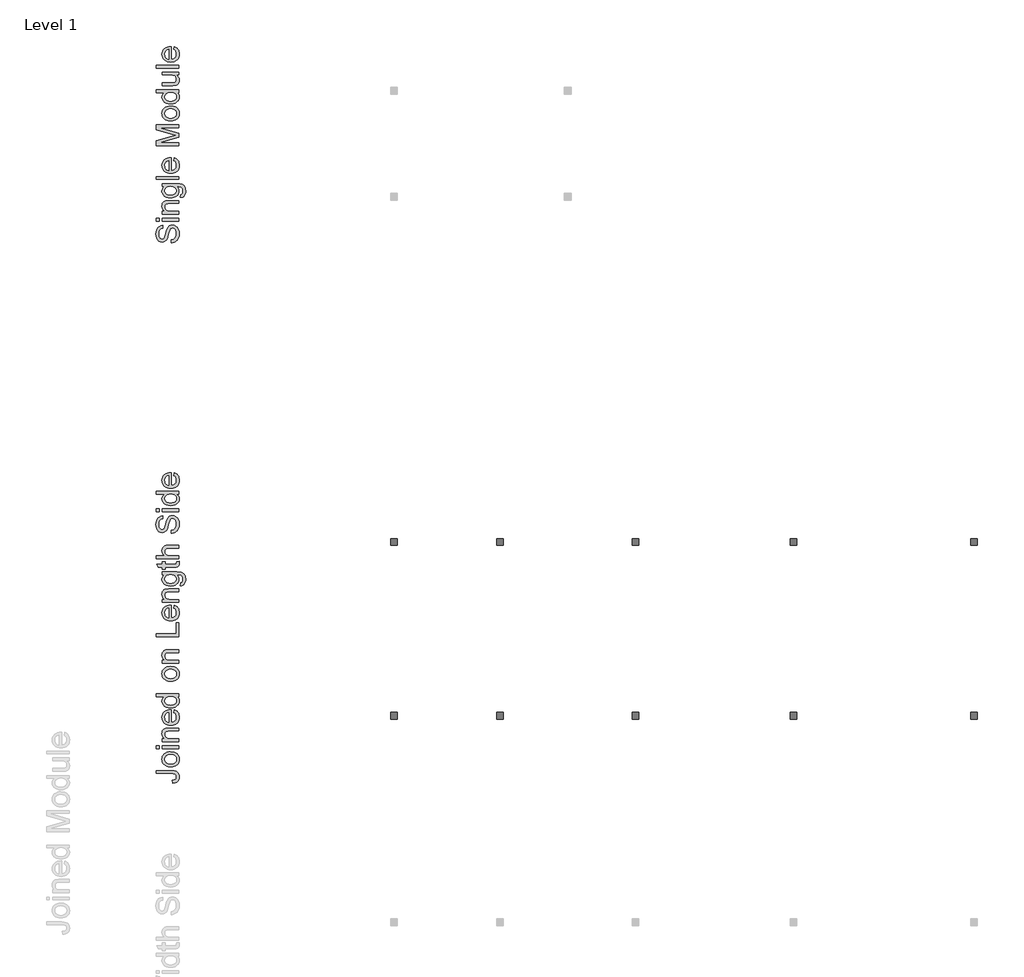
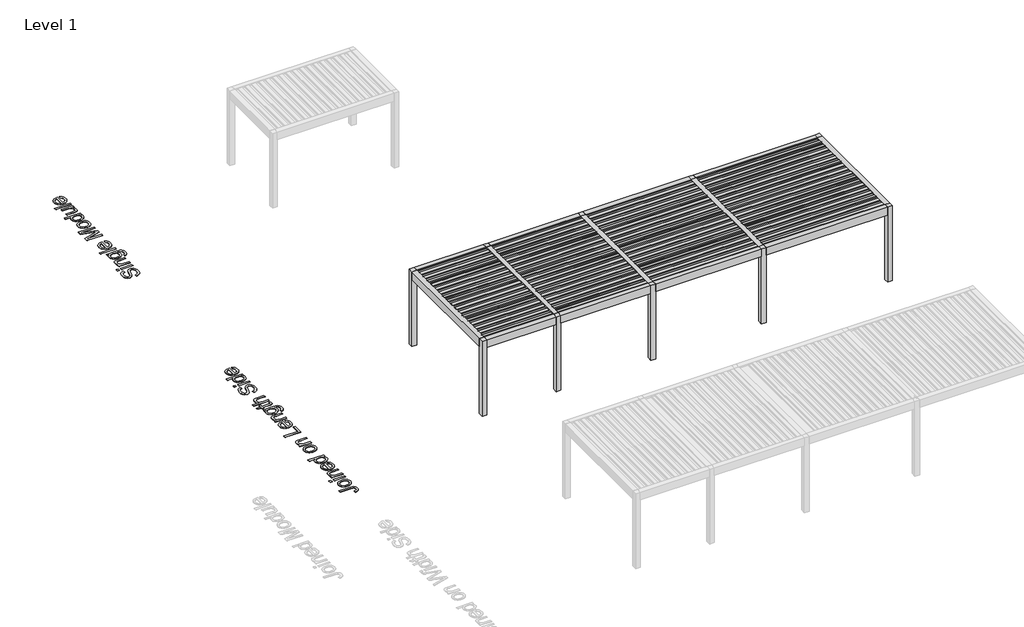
# One storey, part 42 of 69: 3 proxies.
"""IFC4 building model written with IfcOpenShell, lengths in millimetres."""

from ifc_helpers import new_model, si_unit, origin, origin_with_axes, place, context, project, spatial, polyline, outline, extrude, transform, mapped, element, save
from components import generic_models_a9a52054, generic_models_125597d2

model = new_model("IFC4")

# Units and contexts
model_context = context("Model", 3, world=origin())
ifc_project = project(units=[si_unit("LENGTHUNIT", "METRE", prefix="MILLI")], contexts=[model_context])

# Site, building, storey
site = spatial("IfcSite", under=ifc_project)
building = spatial("IfcBuilding", under=site)
storey = spatial("IfcBuildingStorey", under=building, Name="Level 1", Elevation=0.0)

# Proxies
placement = place(None, origin())
generic_models_shape = generic_models_a9a52054(model_context)
generic_models_2_shape = generic_models_125597d2(model_context)
element("IfcBuildingElementProxy", 1, Name="Renson_Camargue_Freestanding_Patio covers : Renson_Camargue_Freestanding_Patio covers", ObjectType="Renson_Camargue_Freestanding_Patio covers : Renson_Camargue_Freestanding_Patio covers", at=placement, inside=storey, context=model_context, shape_type="MappedRepresentation", body=[
    mapped(generic_models_shape, transform((-10046.834943, 22628.5861401, 0.0), x_axis=(1.0, 0.0, 0.0), y_axis=(0.0, 1.0, 0.0), z_axis=(0.0, 0.0, 1.0))),
    mapped(generic_models_2_shape, transform((-10046.834943, 22628.5861401, 0.0), x_axis=(1.0, 0.0, 0.0), y_axis=(0.0, 1.0, 0.0), z_axis=(0.0, 0.0, 1.0))),
])
element("IfcBuildingElementProxy", 2, Name="500mm Arial", ObjectType="500mm Arial", at=placement, inside=storey, context=model_context, shape_type="SweptSolid", body=[
    extrude(outline(polyline([(-16159.6666242, 31183.2954326), (-16159.6666242, 31246.0806264), (-16124.8251336, 31253.2849821), (-16096.8201167, 31266.3141361), (-16074.5939129, 31286.6396164), (-16057.0888612, 31315.7329508), (-16045.7305046, 31351.294877), (-16041.9443858, 31391.0261325), (-16044.8107997, 31426.0055789), (-16053.4100413, 31456.631755), (-16067.0216751, 31481.4484612), (-16084.9252655, 31498.9994981), (-16105.480672, 31509.4381497), (-16127.047754, 31512.9177002), (-16148.063013, 31510.3118694), (-16166.2271865, 31502.494377), (-16181.7242155, 31486.6141376), (-16194.7380411, 31459.8200656), (-16218.7116845, 31368.4013898), (-16234.5765955, 31308.3906393), (-16249.6750857, 31269.9929561), (-16270.7976436, 31238.7383149), (-16296.3960991, 31216.5887531), (-16325.9186292, 31203.3909866), (-16358.813411, 31198.991731), (-16395.5862821, 31204.4333189), (-16429.8759497, 31220.7580824), (-16445.4036356, 31232.8943561), (-16458.9386273, 31247.536826), (-16480.0305284, 31284.3403539), (-16492.860413, 31328.5168502), (-16497.1370411, 31377.4144987), (-16492.6611435, 31430.389506), (-16479.2334507, 31476.7426374), (-16457.1298742, 31514.8184239), (-16442.9280963, 31530.1315119), (-16426.6263254, 31542.9613965), (-16389.6235281, 31560.7730165), (-16348.0222058, 31567.8547449), (-16348.0222058, 31505.069551), (-16368.0564461, 31500.8695649), (-16385.4848556, 31493.5425818), (-16400.3074343, 31483.0886018), (-16412.5241823, 31469.5076248), (-16422.0737857, 31452.546732), (-16428.894931, 31431.9530045), (-16434.3518473, 31379.8670453), (-16428.9562447, 31326.5548129), (-16422.2117415, 31306.1756832), (-16412.7694369, 31289.9812112), (-16401.4187445, 31277.6418359), (-16388.9490777, 31268.8279964), (-16375.3604365, 31263.5396928), (-16360.6528209, 31261.7769249), (-16336.5258934, 31266.7739886), (-16317.1201182, 31281.7651799), (-16308.4902197, 31295.5300979), (-16299.7683507, 31317.2044788), (-16282.0487013, 31384.2816293), (-16265.2181, 31453.504758), (-16250.533477, 31495.3819918), (-16227.7554502, 31531.1738443), (-16199.6431344, 31556.1438347), (-16166.503098, 31570.8131292), (-16128.6419093, 31575.7028941), (-16089.9376577, 31570.0773652), (-16053.5326686, 31553.2007787), (-16022.2013854, 31525.7629132), (-15998.7182513, 31488.4535476), (-15984.0489568, 31443.5872726), (-15979.1591919, 31393.4786791), (-15984.4321672, 31331.9657439), (-15991.0233863, 31305.2904671), (-16000.251093, 31281.3359843), (-16012.1306158, 31259.9566754), (-16026.677283, 31241.0069206), (-16043.8910947, 31224.4867197), (-16063.7720508, 31210.3960729), (-16085.676358, 31199.0453805), (-16108.9602226, 31190.745043), (-16133.6236447, 31185.4950603), (-16159.6666242, 31183.2954326)])), origin_with_axes(), (0.0, 0.0, 1.0), 5.0),
    extrude(outline(polyline([(-16426.5036981, 31662.0325356), (-16489.2888919, 31662.0325356), (-16489.2888919, 31724.8177295), (-16426.5036981, 31724.8177295), (-16426.5036981, 31662.0325356)])), origin_with_axes(), (0.0, 0.0, 1.0), 5.0),
    extrude(outline(polyline([(-15987.0073412, 31662.0325356), (-16355.870355, 31662.0325356), (-16355.870355, 31724.8177295), (-15987.0073412, 31724.8177295), (-15987.0073412, 31662.0325356)])), origin_with_axes(), (0.0, 0.0, 1.0), 5.0),
    extrude(outline(polyline([(-15987.0073412, 31818.9955202), (-16355.870355, 31818.9955202), (-16355.870355, 31881.7807141), (-16304.3668757, 31881.7807141), (-16330.3332132, 31903.5930507), (-16348.8805971, 31929.7893144), (-16360.0090274, 31960.3695053), (-16363.7185042, 31995.3336233), (-16360.729463, 32026.2816961), (-16351.7623394, 32054.6239381), (-16337.9361077, 32078.2603563), (-16320.3697425, 32095.0909576), (-16299.1092288, 32106.5106279), (-16274.2005521, 32113.914253), (-16213.5000229, 32117.225191), (-15987.0073412, 32117.225191), (-15987.0073412, 32054.4399971), (-16205.038737, 32054.4399971), (-16237.504323, 32052.631244), (-16260.5889182, 32047.2049846), (-16277.1282796, 32037.1955286), (-16289.9581642, 32021.6371859), (-16298.1895238, 32001.6949161), (-16300.9333104, 31978.5336788), (-16299.3928045, 31959.4689608), (-16294.771287, 31941.7608077), (-16287.0687577, 31925.4092194), (-16276.2852167, 31910.414196), (-16261.1943907, 31897.8870477), (-16240.5700063, 31888.9390846), (-16214.4120636, 31883.5703067), (-16182.7205626, 31881.7807141), (-15987.0073412, 31881.7807141), (-15987.0073412, 31818.9955202)])), origin_with_axes(), (0.0, 0.0, 1.0), 5.0),
    extrude(outline(polyline([(-15955.6147442, 32187.8585341), (-15947.766595, 32250.6437279), (-15928.1462219, 32257.5721721), (-15914.6572154, 32270.999865), (-15904.1725786, 32297.3953981), (-15900.6776996, 32331.9456488), (-15904.6324311, 32368.795162), (-15916.4966254, 32396.2023707), (-15935.5038618, 32415.2096071), (-15960.8877195, 32426.8592036), (-15987.8963893, 32430.2621121), (-16034.0962365, 32431.1511602), (-16013.4948448, 32410.2585286), (-15998.779565, 32386.9440071), (-15989.9503971, 32361.2075959), (-15987.0073412, 32333.0492948), (-15990.4332422, 32298.6255035), (-16000.7109455, 32268.3173921), (-16017.8404509, 32242.1249605), (-16041.8217584, 32220.0482086), (-16070.5931962, 32202.5316607), (-16102.093092, 32190.0198408), (-16136.321446, 32182.5127488), (-16173.2782581, 32180.0103848), (-16223.9693313, 32184.5016109), (-16270.5830458, 32197.9752889), (-16310.084375, 32219.9562381), (-16326.0297602, 32233.9587466), (-16339.4382925, 32249.9692776), (-16350.0608852, 32267.7310802), (-16357.6484513, 32286.9874033), (-16362.200991, 32307.7382471), (-16363.7185042, 32329.9836115), (-16360.2849389, 32359.3451933), (-16349.9842431, 32385.9936453), (-16332.8164166, 32409.9289676), (-16308.7814596, 32431.1511602), (-16355.870355, 32431.1511602), (-16355.870355, 32493.9363541), (-16037.4071745, 32493.9363541), (-15963.8767607, 32489.6443974), (-15936.5270336, 32484.2794517), (-15915.4542931, 32476.7685276), (-15883.3412606, 32454.588309), (-15858.7391522, 32422.383306), (-15849.6187444, 32402.6977871), (-15843.1041674, 32380.8586258), (-15837.8925058, 32330.7193755), (-15839.7280837, 32299.9590758), (-15845.2348173, 32272.3027804), (-15854.4127066, 32247.7504893), (-15867.2617517, 32226.3022026), (-15883.797281, 32208.9772598), (-15904.0346228, 32196.7950009), (-15927.9737773, 32189.7554256), (-15955.6147442, 32187.8585341)]), holes=[polyline([(-16177.5702147, 32242.7955787), (-16146.5263392, 32244.4702082), (-16119.981354, 32249.4940967), (-16097.935259, 32257.8672442), (-16080.3880543, 32269.5896507), (-16067.0025146, 32283.8412459), (-16057.4414148, 32299.8019595), (-16051.704755, 32317.4717916), (-16049.792535, 32336.8507421), (-16051.6932587, 32356.0380874), (-16057.3954296, 32373.6236132), (-16066.8990478, 32389.6073195), (-16080.2041133, 32403.9892062), (-16097.5788733, 32415.8725611), (-16119.2915753, 32424.3606717), (-16145.342219, 32429.4535381), (-16175.7308047, 32431.1511602), (-16204.8509639, 32429.4037207), (-16230.1620116, 32424.1614023), (-16251.6639478, 32415.4242049), (-16269.3567725, 32403.1921286), (-16283.1715078, 32388.4998414), (-16293.0391759, 32372.3820115), (-16298.9597768, 32354.8386388), (-16300.9333104, 32335.8697235), (-16298.9904336, 32317.2188727), (-16293.1618032, 32300.0165573), (-16283.4474193, 32284.2627773), (-16269.8472818, 32269.9575327), (-16252.4227044, 32258.0741778), (-16231.2350007, 32249.5860672), (-16206.2841708, 32244.4932008), (-16177.5702147, 32242.7955787)])]), origin_with_axes(), (0.0, 0.0, 1.0), 5.0),
    extrude(outline(polyline([(-15987.0073412, 32588.1141448), (-16489.2888919, 32588.1141448), (-16489.2888919, 32650.8993387), (-15987.0073412, 32650.8993387), (-15987.0073412, 32588.1141448)])), origin_with_axes(), (0.0, 0.0, 1.0), 5.0),
    extrude(outline(polyline([(-16096.8814304, 33003.33029), (-16089.0332812, 33064.8892106), (-16064.3775233, 33055.4507381), (-16042.6494929, 33042.7089919), (-16023.8491901, 33026.663972), (-16007.9766149, 33007.3156783), (-15995.3689923, 32984.8633803), (-15986.3635477, 32959.5063474), (-15980.9602809, 32931.2445795), (-15979.1591919, 32900.0780767), (-15982.2670284, 32861.1209063), (-15991.5905377, 32826.4097072), (-16007.1297199, 32795.9444795), (-16028.884575, 32769.7252231), (-16056.2496304, 32748.6409863), (-16088.6194139, 32733.5808171), (-16125.9939254, 32724.5447156), (-16168.3731648, 32721.5326817), (-16212.1894433, 32724.5753724), (-16250.8093885, 32733.7034444), (-16284.2330006, 32748.9168977), (-16312.4602796, 32770.2157324), (-16334.8857529, 32796.3660109), (-16350.9039481, 32826.1337957), (-16360.5148652, 32859.5190868), (-16363.7185042, 32896.5218841), (-16360.5225294, 32932.3328971), (-16350.9346049, 32964.718009), (-16334.9547307, 32993.6772198), (-16312.5829069, 33019.2105295), (-16284.4169416, 33040.0533438), (-16251.0546432, 33054.9410683), (-16212.4960116, 33063.873703), (-16168.7410468, 33066.8512479), (-16151.818475, 33066.4833659), (-16151.818475, 32784.3178756), (-16126.7641783, 32787.9545424), (-16104.8215501, 32795.1857229), (-16085.9905905, 32806.011417), (-16070.2712994, 32820.4316248), (-16057.8782747, 32837.6492686), (-16049.0261142, 32856.8672707), (-16043.7148179, 32878.0856312), (-16041.9443858, 32901.30435), (-16045.2246669, 32934.7202979), (-16055.0655103, 32962.8632706), (-16072.0800526, 32985.7332679), (-16096.8814304, 33003.33029)]), holes=[polyline([(-16214.6036688, 32784.3178756), (-16214.6036688, 33004.066054), (-16247.7743621, 32995.5741113), (-16271.5027508, 32978.927451), (-16284.3786206, 32961.8056098), (-16293.5756705, 32942.3231925), (-16299.0939004, 32920.480199), (-16300.9333104, 32896.2766294), (-16295.0625269, 32853.9548716), (-16287.7240475, 32835.5416113), (-16277.4501764, 32818.9600968), (-16264.7160944, 32805.0457267), (-16249.9969825, 32794.6338999), (-16233.2928406, 32787.7246161), (-16214.6036688, 32784.3178756)])]), origin_with_axes(), (0.0, 0.0, 1.0), 5.0),
    extrude(outline(polyline([(-15987.0073412, 33333.6883217), (-16489.2888919, 33333.6883217), (-16489.2888919, 33441.723001), (-16135.2637852, 33544.4847049), (-16061.3195042, 33565.208724), (-16141.3951518, 33587.6495257), (-16489.2888919, 33688.6944471), (-16489.2888919, 33796.7291263), (-15987.0073412, 33796.7291263), (-15987.0073412, 33733.9439325), (-16426.5036981, 33733.9439325), (-15987.0073412, 33607.7604081), (-15987.0073412, 33522.6570399), (-16426.5036981, 33396.4735156), (-15987.0073412, 33396.4735156), (-15987.0073412, 33333.6883217)])), origin_with_axes(), (0.0, 0.0, 1.0), 5.0),
    extrude(outline(polyline([(-16171.4388481, 33883.0587678), (-16219.209858, 33886.4540121), (-16260.3743204, 33896.6397448), (-16294.9322353, 33913.6159661), (-16322.8836028, 33937.3826758), (-16340.7488722, 33961.3103339), (-16353.5097789, 33987.7211955), (-16361.1663229, 34016.6152605), (-16363.7185042, 34047.992529), (-16360.6106678, 34082.6309181), (-16351.2871585, 34113.9507051), (-16335.7479763, 34141.9518898), (-16313.9931212, 34166.6344725), (-16286.7583573, 34186.7798438), (-16254.7794484, 34201.1693948), (-16218.0563947, 34209.8031253), (-16176.589196, 34212.6810355), (-16113.1602087, 34207.5920012), (-16087.1248933, 34201.2307084), (-16064.8756968, 34192.3248984), (-16045.6576947, 34180.9857024), (-16028.7159624, 34167.3242512), (-16014.0504999, 34151.3405449), (-16001.6613073, 34133.0345836), (-15984.7847208, 34092.306981), (-15979.1591919, 34047.992529), (-15982.2555321, 34012.8483022), (-15991.5445524, 33981.2372753), (-16007.0262531, 33953.1594484), (-16028.700634, 33928.6148216), (-16056.1998131, 33908.6840481), (-16089.1559085, 33894.4477813), (-16127.5689202, 33885.9060212), (-16171.4388481, 33883.0587678)]), holes=[polyline([(-16171.5614754, 33945.8439617), (-16141.107744, 33947.660379), (-16114.7390356, 33953.1096311), (-16092.4553501, 33962.1917178), (-16074.2566877, 33974.9066393), (-16060.1200556, 33990.3730115), (-16050.0224613, 34007.7094505), (-16043.9639046, 34026.9159564), (-16041.9443858, 34047.992529), (-16043.975401, 34068.9618027), (-16050.0684465, 34088.0916665), (-16060.2235224, 34105.3821203), (-16074.4406287, 34120.8331641), (-16092.8194, 34133.5480855), (-16115.4594711, 34142.6301723), (-16142.360842, 34148.0794243), (-16173.5235127, 34149.8958417), (-16203.0115539, 34148.067928), (-16228.6904836, 34142.584187), (-16250.5603018, 34133.4446187), (-16268.6210085, 34120.6492231), (-16282.7576406, 34105.1406977), (-16292.8552349, 34087.8617402), (-16298.9137915, 34068.8123507), (-16300.9333104, 34047.992529), (-16298.9214557, 34026.9159564), (-16292.8858917, 34007.7094505), (-16282.8266184, 33990.3730115), (-16268.7436358, 33974.9066393), (-16250.5986228, 33962.1917178), (-16228.3532584, 33953.1096311), (-16202.0075426, 33947.660379), (-16171.5614754, 33945.8439617)])]), origin_with_axes(), (0.0, 0.0, 1.0), 5.0),
    extrude(outline(polyline([(-15987.0073412, 34510.9107063), (-16046.2363424, 34510.9107063), (-16016.8900891, 34492.1257319), (-15995.9284795, 34469.3706977), (-15983.3515138, 34442.6456035), (-15979.1591919, 34411.9504496), (-15985.2292449, 34371.3608028), (-16003.4394036, 34334.2047213), (-16032.5174097, 34302.7508107), (-16071.1910044, 34279.2676766), (-16117.8966894, 34264.6443673), (-16171.0709661, 34259.7699309), (-16223.5861209, 34264.2611569), (-16271.0122414, 34277.734835), (-16292.1424635, 34287.8362614), (-16310.6515264, 34300.1756367), (-16326.5394301, 34314.7529608), (-16339.8061745, 34331.5682336), (-16357.7404218, 34369.5367212), (-16363.7185042, 34411.7051949), (-16359.441876, 34442.4233415), (-16346.6119915, 34469.5852955), (-16326.9456331, 34492.608577), (-16302.1595837, 34510.9107063), (-16489.2888919, 34510.9107063), (-16489.2888919, 34573.6959001), (-15987.0073412, 34573.6959001), (-15987.0073412, 34510.9107063)]), holes=[polyline([(-16171.3162207, 34322.5551247), (-16140.8701535, 34324.3255568), (-16114.5244377, 34329.6368531), (-16092.2790733, 34338.4890137), (-16074.1340604, 34350.8820384), (-16060.0510777, 34365.6816245), (-16049.9918044, 34381.7534691), (-16043.9562404, 34399.0975724), (-16041.9443858, 34417.7139342), (-16043.8642699, 34436.4184344), (-16049.6239224, 34453.6590708), (-16059.2233432, 34469.4358434), (-16072.6625324, 34483.7487523), (-16090.0487888, 34495.6321072), (-16111.4894113, 34504.1202178), (-16136.9844, 34509.2130841), (-16166.5337548, 34510.9107063), (-16198.930363, 34509.1824273), (-16226.7131179, 34503.9975904), (-16249.8820193, 34495.3561957), (-16268.4370675, 34483.258243), (-16282.6541737, 34468.6311016), (-16292.8092497, 34452.4021406), (-16298.9022952, 34434.5713602), (-16300.9333104, 34415.1387602), (-16298.9827694, 34396.1545164), (-16293.1311464, 34378.8104132), (-16283.3784414, 34363.1064505), (-16269.7246545, 34349.0426284), (-16251.8708814, 34337.4543455), (-16229.5182181, 34329.1770007), (-16202.6666645, 34324.2105937), (-16171.3162207, 34322.5551247)])]), origin_with_axes(), (0.0, 0.0, 1.0), 5.0),
    extrude(outline(polyline([(-15987.0073412, 34903.3181678), (-16050.4056717, 34903.3181678), (-16019.2353368, 34880.6014546), (-15996.9708119, 34854.1446078), (-15983.6120969, 34823.9476273), (-15979.1591919, 34790.0105133), (-15982.2861889, 34759.4303224), (-15991.6671798, 34730.9654531), (-16005.7693229, 34707.0837802), (-16023.0597767, 34690.2531789), (-16044.0597073, 34678.9254792), (-16069.2902808, 34671.5525108), (-16127.6608907, 34667.8736909), (-16355.870355, 34667.8736909), (-16355.870355, 34730.6588847), (-16157.2140776, 34730.6588847), (-16093.2026104, 34734.460332), (-16071.8501263, 34743.6113966), (-16055.6173333, 34759.2923667), (-16045.3626227, 34780.4609098), (-16041.9443858, 34806.0746937), (-16045.4392647, 34833.1600056), (-16055.9239016, 34858.497878), (-16072.4326061, 34879.3905097), (-16093.9996881, 34893.1400993), (-16123.5375466, 34900.7736507), (-16163.9585808, 34903.3181678), (-16355.870355, 34903.3181678), (-16355.870355, 34966.1033616), (-15987.0073412, 34966.1033616), (-15987.0073412, 34903.3181678)])), origin_with_axes(), (0.0, 0.0, 1.0), 5.0),
    extrude(outline(polyline([(-15987.0073412, 35052.4330032), (-16489.2888919, 35052.4330032), (-16489.2888919, 35115.218197), (-15987.0073412, 35115.218197), (-15987.0073412, 35052.4330032)])), origin_with_axes(), (0.0, 0.0, 1.0), 5.0),
    extrude(outline(polyline([(-16096.8814304, 35467.6491484), (-16089.0332812, 35529.2080689), (-16064.3775233, 35519.7695965), (-16042.6494929, 35507.0278503), (-16023.8491901, 35490.9828304), (-16007.9766149, 35471.6345367), (-15995.3689923, 35449.1822387), (-15986.3635477, 35423.8252057), (-15980.9602809, 35395.5634379), (-15979.1591919, 35364.3969351), (-15982.2670284, 35325.4397646), (-15991.5905377, 35290.7285655), (-16007.1297199, 35260.2633378), (-16028.884575, 35234.0440815), (-16056.2496304, 35212.9598446), (-16088.6194139, 35197.8996754), (-16125.9939254, 35188.8635739), (-16168.3731648, 35185.8515401), (-16212.1894433, 35188.8942308), (-16250.8093885, 35198.0223028), (-16284.2330006, 35213.2357561), (-16312.4602796, 35234.5345908), (-16334.8857529, 35260.6848693), (-16350.9039481, 35290.4526541), (-16360.5148652, 35323.8379451), (-16363.7185042, 35360.8407425), (-16360.5225294, 35396.6517554), (-16350.9346049, 35429.0368673), (-16334.9547307, 35457.9960781), (-16312.5829069, 35483.5293879), (-16284.4169416, 35504.3722021), (-16251.0546432, 35519.2599266), (-16212.4960116, 35528.1925613), (-16168.7410468, 35531.1701062), (-16151.818475, 35530.8022242), (-16151.818475, 35248.6367339), (-16126.7641783, 35252.2734007), (-16104.8215501, 35259.5045812), (-16085.9905905, 35270.3302753), (-16070.2712994, 35284.7504831), (-16057.8782747, 35301.9681269), (-16049.0261142, 35321.1861291), (-16043.7148179, 35342.4044896), (-16041.9443858, 35365.6232084), (-16045.2246669, 35399.0391563), (-16055.0655103, 35427.1821289), (-16072.0800526, 35450.0521263), (-16096.8814304, 35467.6491484)]), holes=[polyline([(-16214.6036688, 35248.6367339), (-16214.6036688, 35468.3849124), (-16247.7743621, 35459.8929697), (-16271.5027508, 35443.2463094), (-16284.3786206, 35426.1244682), (-16293.5756705, 35406.6420509), (-16299.0939004, 35384.7990574), (-16300.9333104, 35360.5954878), (-16295.0625269, 35318.2737299), (-16287.7240475, 35299.8604697), (-16277.4501764, 35283.2789551), (-16264.7160944, 35269.3645851), (-16249.9969825, 35258.9527582), (-16233.2928406, 35252.0434745), (-16214.6036688, 35248.6367339)])]), origin_with_axes(), (0.0, 0.0, 1.0), 5.0),
])
element("IfcBuildingElementProxy", 3, Name="500mm Arial", ObjectType="500mm Arial", at=placement, inside=storey, context=model_context, shape_type="SweptSolid", body=[
    extrude(outline(polyline([(-16128.0287727, 19215.8193319), (-16136.1221765, 19278.6045257), (-16090.4741523, 19285.1344311), (-16074.0650825, 19291.5493734), (-16061.9326409, 19300.0643087), (-16046.9414495, 19322.8729924), (-16041.9443858, 19353.0393161), (-16044.7801428, 19376.2312102), (-16053.287414, 19396.0201958), (-16066.68445, 19411.2872986), (-16084.1895016, 19420.9135442), (-16109.527374, 19426.0179068), (-16146.4228724, 19427.7193611), (-16489.2888919, 19427.7193611), (-16489.2888919, 19490.5045549), (-16147.5265184, 19490.5045549), (-16091.6237835, 19486.718436), (-16049.976476, 19475.3600794), (-16019.5495693, 19455.7703632), (-15997.308037, 19427.2901654), (-15983.6964032, 19391.5289698), (-15979.1591919, 19350.0962601), (-15981.5006076, 19319.1558515), (-15988.5248544, 19292.0628754), (-16000.2319325, 19268.8173318), (-16016.6218418, 19249.4192207), (-16037.6332686, 19234.2134316), (-16063.2048994, 19223.5448537), (-16093.3367341, 19217.4134872), (-16128.0287727, 19215.8193319)])), origin_with_axes(), (0.0, 0.0, 1.0), 5.0),
    extrude(outline(polyline([(-16171.4388481, 19576.8341965), (-16219.209858, 19580.2294407), (-16260.3743204, 19590.4151734), (-16294.9322353, 19607.3913947), (-16322.8836028, 19631.1581044), (-16340.7488722, 19655.0857625), (-16353.5097789, 19681.4966241), (-16361.1663229, 19710.3906891), (-16363.7185042, 19741.7679576), (-16360.6106678, 19776.4063467), (-16351.2871585, 19807.7261337), (-16335.7479763, 19835.7273185), (-16313.9931212, 19860.4099011), (-16286.7583573, 19880.5552724), (-16254.7794484, 19894.9448234), (-16218.0563947, 19903.5785539), (-16176.589196, 19906.4564641), (-16113.1602087, 19901.3674299), (-16087.1248933, 19895.006137), (-16064.8756968, 19886.1003271), (-16045.6576947, 19874.761131), (-16028.7159624, 19861.0996798), (-16014.0504999, 19845.1159735), (-16001.6613073, 19826.8100122), (-15984.7847208, 19786.0824096), (-15979.1591919, 19741.7679576), (-15982.2555321, 19706.6237308), (-15991.5445524, 19675.0127039), (-16007.0262531, 19646.9348771), (-16028.700634, 19622.3902502), (-16056.1998131, 19602.4594767), (-16089.1559085, 19588.2232099), (-16127.5689202, 19579.6814498), (-16171.4388481, 19576.8341965)]), holes=[polyline([(-16171.5614754, 19639.6193903), (-16141.107744, 19641.4358076), (-16114.7390356, 19646.8850597), (-16092.4553501, 19655.9671465), (-16074.2566877, 19668.6820679), (-16060.1200556, 19684.1484401), (-16050.0224613, 19701.4848792), (-16043.9639046, 19720.691385), (-16041.9443858, 19741.7679576), (-16043.975401, 19762.7372313), (-16050.0684465, 19781.8670951), (-16060.2235224, 19799.1575489), (-16074.4406287, 19814.6085927), (-16092.8194, 19827.3235141), (-16115.4594711, 19836.4056009), (-16142.360842, 19841.8548529), (-16173.5235127, 19843.6712703), (-16203.0115539, 19841.8433566), (-16228.6904836, 19836.3596156), (-16250.5603018, 19827.2200473), (-16268.6210085, 19814.4246517), (-16282.7576406, 19798.9161263), (-16292.8552349, 19781.6371688), (-16298.9137915, 19762.5877793), (-16300.9333104, 19741.7679576), (-16298.9214557, 19720.691385), (-16292.8858917, 19701.4848792), (-16282.8266184, 19684.1484401), (-16268.7436358, 19668.6820679), (-16250.5986228, 19655.9671465), (-16228.3532584, 19646.8850597), (-16202.0075426, 19641.4358076), (-16171.5614754, 19639.6193903)])]), origin_with_axes(), (0.0, 0.0, 1.0), 5.0),
    extrude(outline(polyline([(-16426.5036981, 19977.0898072), (-16489.2888919, 19977.0898072), (-16489.2888919, 20039.875001), (-16426.5036981, 20039.875001), (-16426.5036981, 19977.0898072)])), origin_with_axes(), (0.0, 0.0, 1.0), 5.0),
    extrude(outline(polyline([(-15987.0073412, 19977.0898072), (-16355.870355, 19977.0898072), (-16355.870355, 20039.875001), (-15987.0073412, 20039.875001), (-15987.0073412, 19977.0898072)])), origin_with_axes(), (0.0, 0.0, 1.0), 5.0),
    extrude(outline(polyline([(-15987.0073412, 20134.0527918), (-16355.870355, 20134.0527918), (-16355.870355, 20196.8379857), (-16304.3668757, 20196.8379857), (-16330.3332132, 20218.6503223), (-16348.8805971, 20244.846586), (-16360.0090274, 20275.4267769), (-16363.7185042, 20310.3908948), (-16360.729463, 20341.3389677), (-16351.7623394, 20369.6812097), (-16337.9361077, 20393.3176279), (-16320.3697425, 20410.1482292), (-16299.1092288, 20421.5678995), (-16274.2005521, 20428.9715246), (-16213.5000229, 20432.2824626), (-15987.0073412, 20432.2824626), (-15987.0073412, 20369.4972687), (-16205.038737, 20369.4972687), (-16237.504323, 20367.6885156), (-16260.5889182, 20362.2622562), (-16277.1282796, 20352.2528002), (-16289.9581642, 20336.6944575), (-16298.1895238, 20316.7521877), (-16300.9333104, 20293.5909504), (-16299.3928045, 20274.5262324), (-16294.771287, 20256.8180793), (-16287.0687577, 20240.466491), (-16276.2852167, 20225.4714676), (-16261.1943907, 20212.9443193), (-16240.5700063, 20203.9963561), (-16214.4120636, 20198.6275783), (-16182.7205626, 20196.8379857), (-15987.0073412, 20196.8379857), (-15987.0073412, 20134.0527918)])), origin_with_axes(), (0.0, 0.0, 1.0), 5.0),
    extrude(outline(polyline([(-16096.8814304, 20776.8652647), (-16089.0332812, 20838.4241852), (-16064.3775233, 20828.9857128), (-16042.6494929, 20816.2439666), (-16023.8491901, 20800.1989467), (-16007.9766149, 20780.850653), (-15995.3689923, 20758.398355), (-15986.3635477, 20733.041322), (-15980.9602809, 20704.7795542), (-15979.1591919, 20673.6130514), (-15982.2670284, 20634.655881), (-15991.5905377, 20599.9446819), (-16007.1297199, 20569.4794541), (-16028.884575, 20543.2601978), (-16056.2496304, 20522.1759609), (-16088.6194139, 20507.1157918), (-16125.9939254, 20498.0796902), (-16168.3731648, 20495.0676564), (-16212.1894433, 20498.1103471), (-16250.8093885, 20507.2384191), (-16284.2330006, 20522.4518724), (-16312.4602796, 20543.7507071), (-16334.8857529, 20569.9009856), (-16350.9039481, 20599.6687704), (-16360.5148652, 20633.0540614), (-16363.7185042, 20670.0568588), (-16360.5225294, 20705.8678718), (-16350.9346049, 20738.2529836), (-16334.9547307, 20767.2121944), (-16312.5829069, 20792.7455042), (-16284.4169416, 20813.5883185), (-16251.0546432, 20828.476043), (-16212.4960116, 20837.4086777), (-16168.7410468, 20840.3862226), (-16151.818475, 20840.0183406), (-16151.818475, 20557.8528503), (-16126.7641783, 20561.4895171), (-16104.8215501, 20568.7206975), (-16085.9905905, 20579.5463917), (-16070.2712994, 20593.9665994), (-16057.8782747, 20611.1842432), (-16049.0261142, 20630.4022454), (-16043.7148179, 20651.6206059), (-16041.9443858, 20674.8393247), (-16045.2246669, 20708.2552726), (-16055.0655103, 20736.3982452), (-16072.0800526, 20759.2682426), (-16096.8814304, 20776.8652647)]), holes=[polyline([(-16214.6036688, 20557.8528503), (-16214.6036688, 20777.6010287), (-16247.7743621, 20769.109086), (-16271.5027508, 20752.4624257), (-16284.3786206, 20735.3405845), (-16293.5756705, 20715.8581672), (-16299.0939004, 20694.0151737), (-16300.9333104, 20669.8116041), (-16295.0625269, 20627.4898463), (-16287.7240475, 20609.076586), (-16277.4501764, 20592.4950715), (-16264.7160944, 20578.5807014), (-16249.9969825, 20568.1688745), (-16233.2928406, 20561.2595908), (-16214.6036688, 20557.8528503)])]), origin_with_axes(), (0.0, 0.0, 1.0), 5.0),
    extrude(outline(polyline([(-15987.0073412, 21130.7677441), (-16046.2363424, 21130.7677441), (-16016.8900891, 21111.9827697), (-15995.9284795, 21089.2277355), (-15983.3515138, 21062.5026413), (-15979.1591919, 21031.8074874), (-15985.2292449, 20991.2178406), (-16003.4394036, 20954.0617591), (-16032.5174097, 20922.6078485), (-16071.1910044, 20899.1247144), (-16117.8966894, 20884.5014051), (-16171.0709661, 20879.6269687), (-16223.5861209, 20884.1181947), (-16271.0122414, 20897.5918728), (-16292.1424635, 20907.6932993), (-16310.6515264, 20920.0326745), (-16326.5394301, 20934.6099986), (-16339.8061745, 20951.4252714), (-16357.7404218, 20989.393759), (-16363.7185042, 21031.5622327), (-16359.441876, 21062.2803793), (-16346.6119915, 21089.4423333), (-16326.9456331, 21112.4656148), (-16302.1595837, 21130.7677441), (-16489.2888919, 21130.7677441), (-16489.2888919, 21193.5529379), (-15987.0073412, 21193.5529379), (-15987.0073412, 21130.7677441)]), holes=[polyline([(-16171.3162207, 20942.4121625), (-16140.8701535, 20944.1825946), (-16114.5244377, 20949.493891), (-16092.2790733, 20958.3460515), (-16074.1340604, 20970.7390762), (-16060.0510777, 20985.5386623), (-16049.9918044, 21001.6105069), (-16043.9562404, 21018.9546102), (-16041.9443858, 21037.570972), (-16043.8642699, 21056.2754722), (-16049.6239224, 21073.5161086), (-16059.2233432, 21089.2928812), (-16072.6625324, 21103.6057901), (-16090.0487888, 21115.489145), (-16111.4894113, 21123.9772556), (-16136.9844, 21129.070122), (-16166.5337548, 21130.7677441), (-16198.930363, 21129.0394651), (-16226.7131179, 21123.8546283), (-16249.8820193, 21115.2132335), (-16268.4370675, 21103.1152808), (-16282.6541737, 21088.4881394), (-16292.8092497, 21072.2591784), (-16298.9022952, 21054.428398), (-16300.9333104, 21034.995798), (-16298.9827694, 21016.0115542), (-16293.1311464, 20998.667451), (-16283.3784414, 20982.9634883), (-16269.7246545, 20968.8996662), (-16251.8708814, 20957.3113834), (-16229.5182181, 20949.0340385), (-16202.6666645, 20944.0676315), (-16171.3162207, 20942.4121625)])]), origin_with_axes(), (0.0, 0.0, 1.0), 5.0),
    extrude(outline(polyline([(-16171.4388481, 21468.238161), (-16219.209858, 21471.6334052), (-16260.3743204, 21481.819138), (-16294.9322353, 21498.7953592), (-16322.8836028, 21522.5620689), (-16340.7488722, 21546.489727), (-16353.5097789, 21572.9005886), (-16361.1663229, 21601.7946537), (-16363.7185042, 21633.1719222), (-16360.6106678, 21667.8103113), (-16351.2871585, 21699.1300982), (-16335.7479763, 21727.131283), (-16313.9931212, 21751.8138656), (-16286.7583573, 21771.9592369), (-16254.7794484, 21786.3487879), (-16218.0563947, 21794.9825185), (-16176.589196, 21797.8604287), (-16113.1602087, 21792.7713944), (-16087.1248933, 21786.4101016), (-16064.8756968, 21777.5042916), (-16045.6576947, 21766.1650955), (-16028.7159624, 21752.5036443), (-16014.0504999, 21736.5199381), (-16001.6613073, 21718.2139767), (-15984.7847208, 21677.4863742), (-15979.1591919, 21633.1719222), (-15982.2555321, 21598.0276953), (-15991.5445524, 21566.4166684), (-16007.0262531, 21538.3388416), (-16028.700634, 21513.7942147), (-16056.1998131, 21493.8634412), (-16089.1559085, 21479.6271744), (-16127.5689202, 21471.0854143), (-16171.4388481, 21468.238161)]), holes=[polyline([(-16171.5614754, 21531.0233548), (-16141.107744, 21532.8397722), (-16114.7390356, 21538.2890242), (-16092.4553501, 21547.371111), (-16074.2566877, 21560.0860324), (-16060.1200556, 21575.5524047), (-16050.0224613, 21592.8888437), (-16043.9639046, 21612.0953495), (-16041.9443858, 21633.1719222), (-16043.975401, 21654.1411959), (-16050.0684465, 21673.2710596), (-16060.2235224, 21690.5615134), (-16074.4406287, 21706.0125572), (-16092.8194, 21718.7274787), (-16115.4594711, 21727.8095654), (-16142.360842, 21733.2588175), (-16173.5235127, 21735.0752348), (-16203.0115539, 21733.2473212), (-16228.6904836, 21727.7635802), (-16250.5603018, 21718.6240118), (-16268.6210085, 21705.8286162), (-16282.7576406, 21690.3200908), (-16292.8552349, 21673.0411334), (-16298.9137915, 21653.9917438), (-16300.9333104, 21633.1719222), (-16298.9214557, 21612.0953495), (-16292.8858917, 21592.8888437), (-16282.8266184, 21575.5524047), (-16268.7436358, 21560.0860324), (-16250.5986228, 21547.371111), (-16228.3532584, 21538.2890242), (-16202.0075426, 21532.8397722), (-16171.5614754, 21531.0233548)])]), origin_with_axes(), (0.0, 0.0, 1.0), 5.0),
    extrude(outline(polyline([(-15987.0073412, 21868.4937717), (-16355.870355, 21868.4937717), (-16355.870355, 21931.2789656), (-16304.3668757, 21931.2789656), (-16330.3332132, 21953.0913022), (-16348.8805971, 21979.287566), (-16360.0090274, 22009.8677568), (-16363.7185042, 22044.8318748), (-16360.729463, 22075.7799476), (-16351.7623394, 22104.1221896), (-16337.9361077, 22127.7586078), (-16320.3697425, 22144.5892091), (-16299.1092288, 22156.0088794), (-16274.2005521, 22163.4125045), (-16213.5000229, 22166.7234425), (-15987.0073412, 22166.7234425), (-15987.0073412, 22103.9382487), (-16205.038737, 22103.9382487), (-16237.504323, 22102.1294955), (-16260.5889182, 22096.7032361), (-16277.1282796, 22086.6937801), (-16289.9581642, 22071.1354374), (-16298.1895238, 22051.1931676), (-16300.9333104, 22028.0319303), (-16299.3928045, 22008.9672123), (-16294.771287, 21991.2590592), (-16287.0687577, 21974.9074709), (-16276.2852167, 21959.9124475), (-16261.1943907, 21947.3852992), (-16240.5700063, 21938.4373361), (-16214.4120636, 21933.0685582), (-16182.7205626, 21931.2789656), (-15987.0073412, 21931.2789656), (-15987.0073412, 21868.4937717)])), origin_with_axes(), (0.0, 0.0, 1.0), 5.0),
    extrude(outline(polyline([(-15987.0073412, 22457.104964), (-16489.2888919, 22457.104964), (-16489.2888919, 22519.8901579), (-16049.792535, 22519.8901579), (-16049.792535, 22771.0309332), (-15987.0073412, 22771.0309332), (-15987.0073412, 22457.104964)])), origin_with_axes(), (0.0, 0.0, 1.0), 5.0),
    extrude(outline(polyline([(-16096.8814304, 23092.0692877), (-16089.0332812, 23153.6282082), (-16064.3775233, 23144.1897358), (-16042.6494929, 23131.4479896), (-16023.8491901, 23115.4029697), (-16007.9766149, 23096.054676), (-15995.3689923, 23073.602378), (-15986.3635477, 23048.245345), (-15980.9602809, 23019.9835772), (-15979.1591919, 22988.8170744), (-15982.2670284, 22949.8599039), (-15991.5905377, 22915.1487049), (-16007.1297199, 22884.6834771), (-16028.884575, 22858.4642208), (-16056.2496304, 22837.3799839), (-16088.6194139, 22822.3198147), (-16125.9939254, 22813.2837132), (-16168.3731648, 22810.2716794), (-16212.1894433, 22813.3143701), (-16250.8093885, 22822.4424421), (-16284.2330006, 22837.6558954), (-16312.4602796, 22858.9547301), (-16334.8857529, 22885.1050086), (-16350.9039481, 22914.8727934), (-16360.5148652, 22948.2580844), (-16363.7185042, 22985.2608818), (-16360.5225294, 23021.0718947), (-16350.9346049, 23053.4570066), (-16334.9547307, 23082.4162174), (-16312.5829069, 23107.9495272), (-16284.4169416, 23128.7923414), (-16251.0546432, 23143.6800659), (-16212.4960116, 23152.6127006), (-16168.7410468, 23155.5902455), (-16151.818475, 23155.2223635), (-16151.818475, 22873.0568732), (-16126.7641783, 22876.69354), (-16104.8215501, 22883.9247205), (-16085.9905905, 22894.7504146), (-16070.2712994, 22909.1706224), (-16057.8782747, 22926.3882662), (-16049.0261142, 22945.6062684), (-16043.7148179, 22966.8246289), (-16041.9443858, 22990.0433477), (-16045.2246669, 23023.4592956), (-16055.0655103, 23051.6022682), (-16072.0800526, 23074.4722656), (-16096.8814304, 23092.0692877)]), holes=[polyline([(-16214.6036688, 22873.0568732), (-16214.6036688, 23092.8050517), (-16247.7743621, 23084.313109), (-16271.5027508, 23067.6664487), (-16284.3786206, 23050.5446075), (-16293.5756705, 23031.0621902), (-16299.0939004, 23009.2191967), (-16300.9333104, 22985.0156271), (-16295.0625269, 22942.6938692), (-16287.7240475, 22924.280609), (-16277.4501764, 22907.6990944), (-16264.7160944, 22893.7847244), (-16249.9969825, 22883.3728975), (-16233.2928406, 22876.4636138), (-16214.6036688, 22873.0568732)])]), origin_with_axes(), (0.0, 0.0, 1.0), 5.0),
    extrude(outline(polyline([(-15987.0073412, 23218.3754394), (-16355.870355, 23218.3754394), (-16355.870355, 23281.1606332), (-16304.3668757, 23281.1606332), (-16330.3332132, 23302.9729698), (-16348.8805971, 23329.1692336), (-16360.0090274, 23359.7494244), (-16363.7185042, 23394.7135424), (-16360.729463, 23425.6616152), (-16351.7623394, 23454.0038573), (-16337.9361077, 23477.6402755), (-16320.3697425, 23494.4708768), (-16299.1092288, 23505.890547), (-16274.2005521, 23513.2941722), (-16213.5000229, 23516.6051101), (-15987.0073412, 23516.6051101), (-15987.0073412, 23453.8199163), (-16205.038737, 23453.8199163), (-16237.504323, 23452.0111631), (-16260.5889182, 23446.5849037), (-16277.1282796, 23436.5754478), (-16289.9581642, 23421.0171051), (-16298.1895238, 23401.0748352), (-16300.9333104, 23377.9135979), (-16299.3928045, 23358.84888), (-16294.771287, 23341.1407268), (-16287.0687577, 23324.7891386), (-16276.2852167, 23309.7941152), (-16261.1943907, 23297.2669668), (-16240.5700063, 23288.3190037), (-16214.4120636, 23282.9502258), (-16182.7205626, 23281.1606332), (-15987.0073412, 23281.1606332), (-15987.0073412, 23218.3754394)])), origin_with_axes(), (0.0, 0.0, 1.0), 5.0),
    extrude(outline(polyline([(-15955.6147442, 23587.2384532), (-15947.766595, 23650.023647), (-15928.1462219, 23656.9520913), (-15914.6572154, 23670.3797841), (-15904.1725786, 23696.7753173), (-15900.6776996, 23731.325568), (-15904.6324311, 23768.1750812), (-15916.4966254, 23795.5822898), (-15935.5038618, 23814.5895262), (-15960.8877195, 23826.2391227), (-15987.8963893, 23829.6420312), (-16034.0962365, 23830.5310793), (-16013.4948448, 23809.6384477), (-15998.779565, 23786.3239263), (-15989.9503971, 23760.587515), (-15987.0073412, 23732.429214), (-15990.4332422, 23698.0054227), (-16000.7109455, 23667.6973112), (-16017.8404509, 23641.5048796), (-16041.8217584, 23619.4281278), (-16070.5931962, 23601.9115799), (-16102.093092, 23589.3997599), (-16136.321446, 23581.892668), (-16173.2782581, 23579.390304), (-16223.9693313, 23583.88153), (-16270.5830458, 23597.3552081), (-16310.084375, 23619.3361573), (-16326.0297602, 23633.3386657), (-16339.4382925, 23649.3491967), (-16350.0608852, 23667.1109993), (-16357.6484513, 23686.3673225), (-16362.200991, 23707.1181663), (-16363.7185042, 23729.3635307), (-16360.2849389, 23758.7251124), (-16349.9842431, 23785.3735644), (-16332.8164166, 23809.3088868), (-16308.7814596, 23830.5310793), (-16355.870355, 23830.5310793), (-16355.870355, 23893.3162732), (-16037.4071745, 23893.3162732), (-15963.8767607, 23889.0243166), (-15936.5270336, 23883.6593708), (-15915.4542931, 23876.1484468), (-15883.3412606, 23853.9682281), (-15858.7391522, 23821.7632251), (-15849.6187444, 23802.0777063), (-15843.1041674, 23780.2385449), (-15837.8925058, 23730.0992947), (-15839.7280837, 23699.3389949), (-15845.2348173, 23671.6826995), (-15854.4127066, 23647.1304084), (-15867.2617517, 23625.6821217), (-15883.797281, 23608.357179), (-15904.0346228, 23596.17492), (-15927.9737773, 23589.1353447), (-15955.6147442, 23587.2384532)]), holes=[polyline([(-16177.5702147, 23642.1754978), (-16146.5263392, 23643.8501273), (-16119.981354, 23648.8740158), (-16097.935259, 23657.2471633), (-16080.3880543, 23668.9695698), (-16067.0025146, 23683.221165), (-16057.4414148, 23699.1818787), (-16051.704755, 23716.8517107), (-16049.792535, 23736.2306613), (-16051.6932587, 23755.4180066), (-16057.3954296, 23773.0035324), (-16066.8990478, 23788.9872386), (-16080.2041133, 23803.3691254), (-16097.5788733, 23815.2524802), (-16119.2915753, 23823.7405909), (-16145.342219, 23828.8334572), (-16175.7308047, 23830.5310793), (-16204.8509639, 23828.7836399), (-16230.1620116, 23823.5413214), (-16251.6639478, 23814.8041241), (-16269.3567725, 23802.5720477), (-16283.1715078, 23787.8797605), (-16293.0391759, 23771.7619306), (-16298.9597768, 23754.218558), (-16300.9333104, 23735.2496426), (-16298.9904336, 23716.5987919), (-16293.1618032, 23699.3964765), (-16283.4474193, 23683.6426965), (-16269.8472818, 23669.3374518), (-16252.4227044, 23657.4540969), (-16231.2350007, 23648.9659863), (-16206.2841708, 23643.8731199), (-16177.5702147, 23642.1754978)])]), origin_with_axes(), (0.0, 0.0, 1.0), 5.0),
    extrude(outline(polyline([(-16039.3692118, 24120.9126009), (-15985.1679312, 24128.7607501), (-15979.1591919, 24081.7944821), (-15981.7650227, 24051.6588153), (-15989.5825151, 24029.1873567), (-16001.6306505, 24013.3071173), (-16016.9284101, 24002.9451078), (-16043.2013159, 23997.2429368), (-16088.1748898, 23995.3422132), (-16293.0851612, 23995.3422132), (-16293.0851612, 23948.2533178), (-16355.870355, 23948.2533178), (-16355.870355, 23995.3422132), (-16445.5109345, 23995.3422132), (-16482.4217613, 24058.127407), (-16355.870355, 24058.127407), (-16355.870355, 24120.9126009), (-16293.0851612, 24120.9126009), (-16293.0851612, 24058.127407), (-16090.0142998, 24058.127407), (-16057.6406842, 24061.438345), (-16046.1750287, 24072.1682365), (-16041.9443858, 24093.5667059), (-16039.3692118, 24120.9126009)])), origin_with_axes(), (0.0, 0.0, 1.0), 5.0),
    extrude(outline(polyline([(-15987.0073412, 24183.6977947), (-16489.2888919, 24183.6977947), (-16489.2888919, 24246.4829886), (-16304.6121303, 24246.4829886), (-16330.4711689, 24269.5445911), (-16348.9419108, 24295.4419508), (-16360.0243559, 24324.1750674), (-16363.7185042, 24355.7439411), (-16359.6871307, 24393.6664435), (-16347.5930101, 24426.2546569), (-16328.3865043, 24451.914426), (-16303.017975, 24469.0515956), (-16268.161156, 24478.708498), (-16220.4897808, 24481.9274655), (-15987.0073412, 24481.9274655), (-15987.0073412, 24419.1422716), (-16213.9905322, 24419.1422716), (-16253.292592, 24414.1452079), (-16268.2991117, 24407.8988782), (-16280.2092913, 24399.1540166), (-16289.2760497, 24388.1175567), (-16295.7523056, 24374.9964322), (-16300.9333104, 24342.5001893), (-16297.4384314, 24315.9667004), (-16286.9537946, 24291.0580236), (-16270.4910753, 24270.4259751), (-16249.0619491, 24256.7223708), (-16220.5817513, 24249.0428341), (-16182.9658173, 24246.4829886), (-15987.0073412, 24246.4829886), (-15987.0073412, 24183.6977947)])), origin_with_axes(), (0.0, 0.0, 1.0), 5.0),
    extrude(outline(polyline([(-16159.6666242, 24748.7645393), (-16159.6666242, 24811.5497332), (-16124.8251336, 24818.7540889), (-16096.8201167, 24831.7832429), (-16074.5939129, 24852.1087231), (-16057.0888612, 24881.2020576), (-16045.7305046, 24916.7639838), (-16041.9443858, 24956.4952393), (-16044.8107997, 24991.4746856), (-16053.4100413, 25022.1008617), (-16067.0216751, 25046.917568), (-16084.9252655, 25064.4686048), (-16105.480672, 25074.9072565), (-16127.047754, 25078.386807), (-16148.063013, 25075.7809762), (-16166.2271865, 25067.9634838), (-16181.7242155, 25052.0832443), (-16194.7380411, 25025.2891724), (-16218.7116845, 24933.8704965), (-16234.5765955, 24873.8597461), (-16249.6750857, 24835.4620628), (-16270.7976436, 24804.2074217), (-16296.3960991, 24782.0578599), (-16325.9186292, 24768.8600933), (-16358.813411, 24764.4608378), (-16395.5862821, 24769.9024256), (-16429.8759497, 24786.2271892), (-16445.4036356, 24798.3634629), (-16458.9386273, 24813.0059327), (-16480.0305284, 24849.8094607), (-16492.860413, 24893.9859569), (-16497.1370411, 24942.8836054), (-16492.6611435, 24995.8586127), (-16479.2334507, 25042.2117441), (-16457.1298742, 25080.2875306), (-16442.9280963, 25095.6006187), (-16426.6263254, 25108.4305033), (-16389.6235281, 25126.2421232), (-16348.0222058, 25133.3238516), (-16348.0222058, 25070.5386578), (-16368.0564461, 25066.3386716), (-16385.4848556, 25059.0116886), (-16400.3074343, 25048.5577085), (-16412.5241823, 25034.9767316), (-16422.0737857, 25018.0158387), (-16428.894931, 24997.4221112), (-16434.3518473, 24945.3361521), (-16428.9562447, 24892.0239196), (-16422.2117415, 24871.6447899), (-16412.7694369, 24855.4503179), (-16401.4187445, 24843.1109427), (-16388.9490777, 24834.2971032), (-16375.3604365, 24829.0087995), (-16360.6528209, 24827.2460316), (-16336.5258934, 24832.2430954), (-16317.1201182, 24847.2342867), (-16308.4902197, 24860.9992047), (-16299.7683507, 24882.6735856), (-16282.0487013, 24949.750736), (-16265.2181, 25018.9738648), (-16250.533477, 25060.8510986), (-16227.7554502, 25096.642951), (-16199.6431344, 25121.6129414), (-16166.503098, 25136.282236), (-16128.6419093, 25141.1720008), (-16089.9376577, 25135.546472), (-16053.5326686, 25118.6698855), (-16022.2013854, 25091.23202), (-15998.7182513, 25053.9226543), (-15984.0489568, 25009.0563793), (-15979.1591919, 24958.9477859), (-15984.4321672, 24897.4348506), (-15991.0233863, 24870.7595739), (-16000.251093, 24846.805091), (-16012.1306158, 24825.4257822), (-16026.677283, 24806.4760273), (-16043.8910947, 24789.9558265), (-16063.7720508, 24775.8651796), (-16085.676358, 24764.5144872), (-16108.9602226, 24756.2141497), (-16133.6236447, 24750.9641671), (-16159.6666242, 24748.7645393)])), origin_with_axes(), (0.0, 0.0, 1.0), 5.0),
    extrude(outline(polyline([(-16426.5036981, 25227.5016424), (-16489.2888919, 25227.5016424), (-16489.2888919, 25290.2868362), (-16426.5036981, 25290.2868362), (-16426.5036981, 25227.5016424)])), origin_with_axes(), (0.0, 0.0, 1.0), 5.0),
    extrude(outline(polyline([(-15987.0073412, 25227.5016424), (-16355.870355, 25227.5016424), (-16355.870355, 25290.2868362), (-15987.0073412, 25290.2868362), (-15987.0073412, 25227.5016424)])), origin_with_axes(), (0.0, 0.0, 1.0), 5.0),
    extrude(outline(polyline([(-15987.0073412, 25612.0609547), (-16046.2363424, 25612.0609547), (-16016.8900891, 25593.2759803), (-15995.9284795, 25570.520946), (-15983.3515138, 25543.7958519), (-15979.1591919, 25513.100698), (-15985.2292449, 25472.5110512), (-16003.4394036, 25435.3549696), (-16032.5174097, 25403.9010591), (-16071.1910044, 25380.417925), (-16117.8966894, 25365.7946157), (-16171.0709661, 25360.9201793), (-16223.5861209, 25365.4114053), (-16271.0122414, 25378.8850834), (-16292.1424635, 25388.9865098), (-16310.6515264, 25401.3258851), (-16326.5394301, 25415.9032091), (-16339.8061745, 25432.718482), (-16357.7404218, 25470.6869696), (-16363.7185042, 25512.8554433), (-16359.441876, 25543.5735899), (-16346.6119915, 25570.7355439), (-16326.9456331, 25593.7588254), (-16302.1595837, 25612.0609547), (-16489.2888919, 25612.0609547), (-16489.2888919, 25674.8461485), (-15987.0073412, 25674.8461485), (-15987.0073412, 25612.0609547)]), holes=[polyline([(-16171.3162207, 25423.7053731), (-16140.8701535, 25425.4758052), (-16114.5244377, 25430.7871015), (-16092.2790733, 25439.639262), (-16074.1340604, 25452.0322868), (-16060.0510777, 25466.8318729), (-16049.9918044, 25482.9037175), (-16043.9562404, 25500.2478207), (-16041.9443858, 25518.8641825), (-16043.8642699, 25537.5686827), (-16049.6239224, 25554.8093192), (-16059.2233432, 25570.5860918), (-16072.6625324, 25584.8990007), (-16090.0487888, 25596.7823555), (-16111.4894113, 25605.2704662), (-16136.9844, 25610.3633325), (-16166.5337548, 25612.0609547), (-16198.930363, 25610.3326757), (-16226.7131179, 25605.1478388), (-16249.8820193, 25596.506444), (-16268.4370675, 25584.4084914), (-16282.6541737, 25569.7813499), (-16292.8092497, 25553.552389), (-16298.9022952, 25535.7216086), (-16300.9333104, 25516.2890086), (-16298.9827694, 25497.3047648), (-16293.1311464, 25479.9606616), (-16283.3784414, 25464.2566989), (-16269.7246545, 25450.1928768), (-16251.8708814, 25438.6045939), (-16229.5182181, 25430.327249), (-16202.6666645, 25425.3608421), (-16171.3162207, 25423.7053731)])]), origin_with_axes(), (0.0, 0.0, 1.0), 5.0),
    extrude(outline(polyline([(-16096.8814304, 26027.2770999), (-16089.0332812, 26088.8360204), (-16064.3775233, 26079.397548), (-16042.6494929, 26066.6558018), (-16023.8491901, 26050.6107818), (-16007.9766149, 26031.2624882), (-15995.3689923, 26008.8101901), (-15986.3635477, 25983.4531572), (-15980.9602809, 25955.1913893), (-15979.1591919, 25924.0248866), (-15982.2670284, 25885.0677161), (-15991.5905377, 25850.356517), (-16007.1297199, 25819.8912893), (-16028.884575, 25793.6720329), (-16056.2496304, 25772.5877961), (-16088.6194139, 25757.5276269), (-16125.9939254, 25748.4915254), (-16168.3731648, 25745.4794916), (-16212.1894433, 25748.5221822), (-16250.8093885, 25757.6502542), (-16284.2330006, 25772.8637076), (-16312.4602796, 25794.1625423), (-16334.8857529, 25820.3128208), (-16350.9039481, 25850.0806055), (-16360.5148652, 25883.4658966), (-16363.7185042, 25920.4686939), (-16360.5225294, 25956.2797069), (-16350.9346049, 25988.6648188), (-16334.9547307, 26017.6240296), (-16312.5829069, 26043.1573393), (-16284.4169416, 26064.0001536), (-16251.0546432, 26078.8878781), (-16212.4960116, 26087.8205128), (-16168.7410468, 26090.7980577), (-16151.818475, 26090.4301757), (-16151.818475, 25808.2646854), (-16126.7641783, 25811.9013522), (-16104.8215501, 25819.1325327), (-16085.9905905, 25829.9582268), (-16070.2712994, 25844.3784346), (-16057.8782747, 25861.5960784), (-16049.0261142, 25880.8140806), (-16043.7148179, 25902.032441), (-16041.9443858, 25925.2511599), (-16045.2246669, 25958.6671078), (-16055.0655103, 25986.8100804), (-16072.0800526, 26009.6800778), (-16096.8814304, 26027.2770999)]), holes=[polyline([(-16214.6036688, 25808.2646854), (-16214.6036688, 26028.0128639), (-16247.7743621, 26019.5209211), (-16271.5027508, 26002.8742609), (-16284.3786206, 25985.7524197), (-16293.5756705, 25966.2700023), (-16299.0939004, 25944.4270089), (-16300.9333104, 25920.2234393), (-16295.0625269, 25877.9016814), (-16287.7240475, 25859.4884211), (-16277.4501764, 25842.9069066), (-16264.7160944, 25828.9925366), (-16249.9969825, 25818.5807097), (-16233.2928406, 25811.671426), (-16214.6036688, 25808.2646854)])]), origin_with_axes(), (0.0, 0.0, 1.0), 5.0),
])

save(model, "model.ifc")
